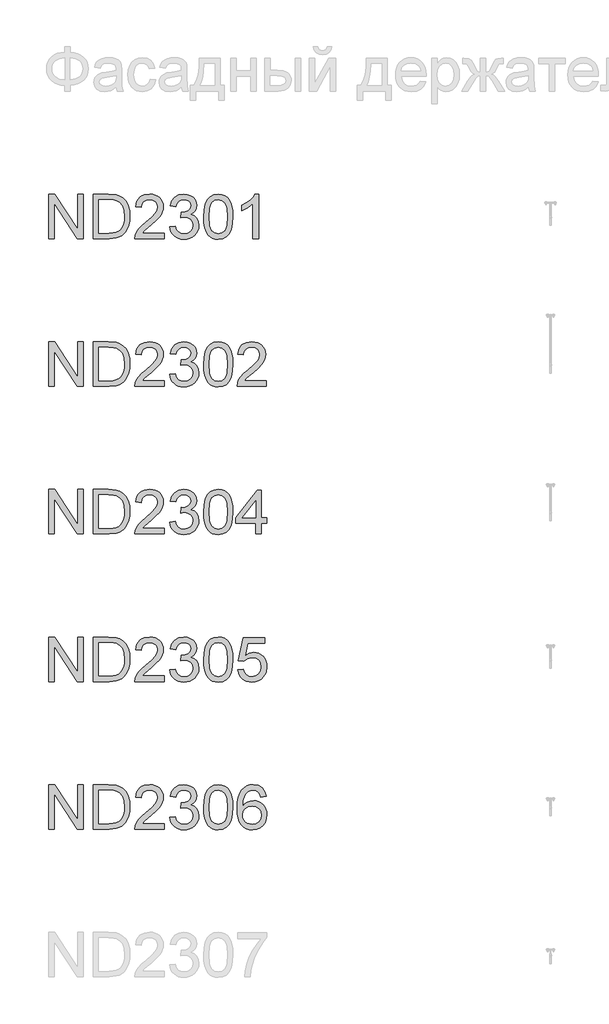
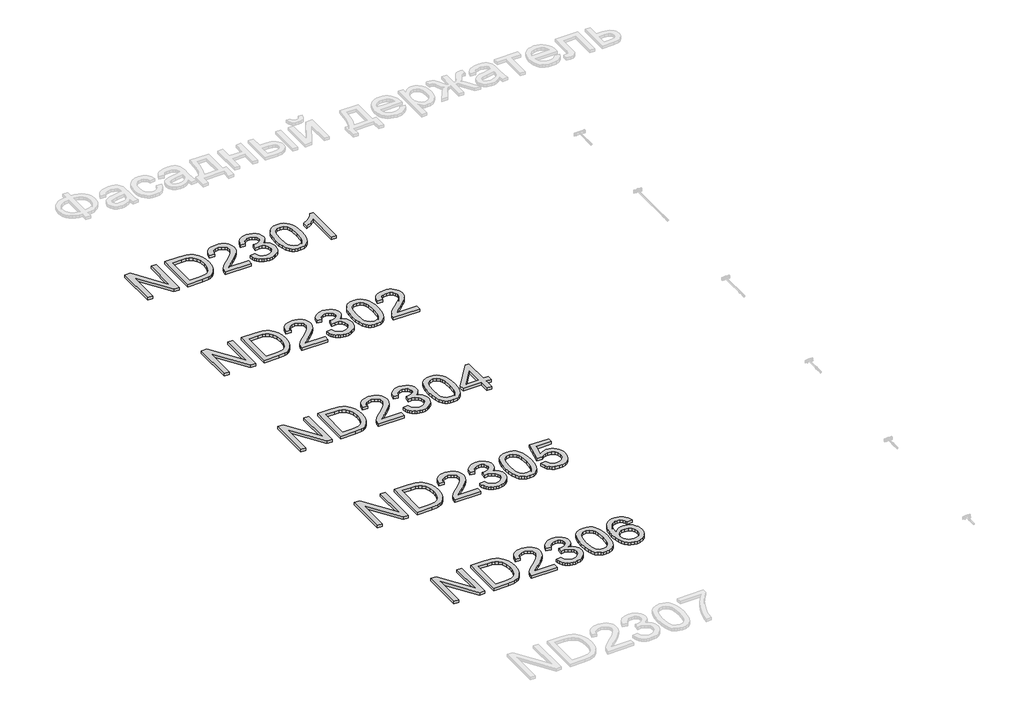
# One storey, part 116 of 124: 5 proxies.
"""IFC4 building model written with IfcOpenShell, lengths in millimetres."""

from ifc_helpers import new_model, si_unit, origin, origin_with_axes, place, context, project, spatial, polyline, outline, extrude, element, save

model = new_model("IFC4")

# Units and contexts
model_context = context("Model", 3, world=origin())
ifc_project = project(units=[si_unit("LENGTHUNIT", "METRE", prefix="MILLI")], contexts=[model_context])

# Site, building, storey
site = spatial("IfcSite", under=ifc_project)
building = spatial("IfcBuilding", under=site)
storey = spatial("IfcBuildingStorey", under=building, Name="Этаж 01", Elevation=0.0)

# Proxies
placement = place(None, origin())
element("IfcBuildingElementProxy", 1, Name="300", ObjectType="300", at=placement, inside=storey, context=model_context, shape_type="SweptSolid", body=[
    extrude(outline(polyline([(34161.4897718, -5519.5141033), (34161.4897718, -5218.1451728), (34201.8096385, -5218.1451728), (34359.2631324, -5456.9005877), (34359.2631324, -5218.1451728), (34396.9342487, -5218.1451728), (34396.9342487, -5519.5141033), (34356.6143821, -5519.5141033), (34199.1608881, -5280.685112), (34199.1608881, -5519.5141033), (34161.4897718, -5519.5141033)])), origin_with_axes(), (0.0, 0.0, 1.0), 20.0),
    extrude(outline(polyline([(34462.8587023, -5519.5141033), (34462.8587023, -5218.1451728), (34566.8221541, -5218.1451728), (34620.6065018, -5222.4861804), (34644.6291961, -5230.8554957), (34664.899494, -5244.0440653), (34685.7400091, -5266.9999018), (34700.5840476, -5295.5475446), (34709.4683977, -5329.1351708), (34712.4298478, -5367.2109573), (34710.4248909, -5399.5569817), (34704.4100203, -5428.0218511), (34695.2497586, -5452.2560775), (34683.8086286, -5471.9101731), (34670.6384532, -5487.4255962), (34656.2910553, -5499.2438053), (34639.819139, -5508.0085939), (34620.275408, -5514.3637553), (34571.8253492, -5519.5141033), (34462.8587023, -5519.5141033)]), holes=[polyline([(34500.5298186, -5481.842987), (34567.1900361, -5481.842987), (34594.7627916, -5480.4818236), (34615.6768831, -5476.3983334), (34631.4590207, -5469.8316398), (34643.6359147, -5461.020866), (34656.7233167, -5444.7144966), (34666.554963, -5423.6072671), (34672.7077894, -5397.6072071), (34674.7587315, -5366.6223461), (34670.7396207, -5325.5667154), (34658.6822883, -5295.253239), (34640.8676027, -5274.4311181), (34619.5764322, -5261.8495538), (34597.9081827, -5257.3246053), (34566.1599665, -5255.8162891), (34500.5298186, -5255.8162891), (34500.5298186, -5481.842987)])]), origin_with_axes(), (0.0, 0.0, 1.0), 20.0),
    extrude(outline(polyline([(34943.1654352, -5481.842987), (34943.1654352, -5519.5141033), (34745.3920746, -5519.5141033), (34749.4387765, -5493.5416344), (34758.7277969, -5473.2437453), (34772.3210366, -5453.5528615), (34791.9843293, -5432.9422727), (34819.4835084, -5409.8852687), (34860.1344689, -5373.7776509), (34884.5250452, -5347.1246003), (34896.7203333, -5325.493139), (34900.7854293, -5304.4502889), (34896.9502595, -5285.5871396), (34885.4447501, -5269.9061695), (34867.7588232, -5259.3387592), (34845.3824009, -5255.8162891), (34821.8839384, -5259.2559858), (34803.6277944, -5269.5750757), (34791.8463735, -5285.9642186), (34787.7720804, -5307.614074), (34750.1009641, -5302.9051845), (34759.2336346, -5266.4664729), (34767.7799932, -5251.9305355), (34778.9797007, -5239.8502105), (34792.5752397, -5230.3542565), (34808.3090928, -5223.5714322), (34846.1917413, -5218.1451728), (34866.381565, -5219.653489), (34884.3503012, -5224.1784375), (34900.0979499, -5231.7200184), (34913.624511, -5242.2782317), (34924.4885261, -5255.0713281), (34932.248537, -5269.3175583), (34936.9045435, -5285.0169225), (34938.4565456, -5302.1694205), (34936.7826826, -5320.1864412), (34931.7610933, -5337.8907622), (34922.849152, -5355.8985859), (34909.5042326, -5374.8261146), (34888.2314563, -5397.4232661), (34855.5359439, -5426.4399585), (34812.1994449, -5462.676335), (34795.2032967, -5481.842987), (34943.1654352, -5481.842987)])), origin_with_axes(), (0.0, 0.0, 1.0), 20.0),
    extrude(outline(polyline([(34980.8365515, -5439.4629811), (35018.5076678, -5434.7540916), (35026.9413625, -5458.427298), (35039.2930005, -5474.4117707), (35056.169587, -5483.51685), (35078.1781274, -5486.5518765), (35104.0034435, -5482.3764158), (35123.9426476, -5469.8500339), (35136.6897587, -5451.1616286), (35140.9387958, -5428.5000977), (35136.7265469, -5406.988198), (35124.0898004, -5389.5413944), (35104.9599367, -5377.9807027), (35081.2683362, -5374.1271388), (35054.8544089, -5378.2474171), (35059.0482637, -5340.5763008), (35065.0815284, -5341.0177592), (35087.6510888, -5338.3138265), (35107.8294162, -5330.2020285), (35122.0664494, -5316.4800301), (35126.8121272, -5296.9454962), (35123.3724305, -5280.6759149), (35113.0533406, -5267.4781484), (35097.3079912, -5258.7317539), (35077.5895162, -5255.8162891), (35057.8342531, -5258.7593451), (35041.6842335, -5267.588513), (35029.8936155, -5282.3037928), (35023.2165573, -5302.9051845), (34985.545441, -5298.196295), (34996.6370832, -5264.3695455), (35016.3739522, -5239.1144465), (35043.3764907, -5223.3874912), (35076.265141, -5218.1451728), (35099.9475445, -5220.7295438), (35121.6985674, -5228.4826569), (35140.0374849, -5240.7147332), (35153.4835718, -5256.7359941), (35161.7333256, -5275.1944732), (35164.4832435, -5294.7382042), (35161.8712813, -5312.948363), (35154.0353948, -5329.4662646), (35141.0859486, -5343.5377509), (35123.1333072, -5354.4086638), (35146.7145431, -5363.9368075), (35164.1889379, -5380.1604035), (35175.0046685, -5402.196535), (35178.6099121, -5429.1622852), (35176.8072903, -5448.2737549), (35171.399425, -5465.8769084), (35162.3863161, -5481.9717457), (35149.7679637, -5496.5582668), (35134.3950948, -5508.6615844), (35117.1184366, -5517.3068113), (35097.9379891, -5522.4939474), (35076.8537522, -5524.2229928), (35057.7974649, -5522.7468663), (35040.4334347, -5518.3184868), (35024.7616617, -5510.9378542), (35010.7821459, -5500.6049687), (34999.0605058, -5487.9268354), (34990.1623601, -5473.5104598), (34984.0877086, -5457.3558417), (34980.8365515, -5439.4629811)])), origin_with_axes(), (0.0, 0.0, 1.0), 20.0),
    extrude(outline(polyline([(35211.5721389, -5371.2576592), (35214.3404509, -5323.0191326), (35222.6453869, -5284.5478729), (35236.4041735, -5255.2552691), (35255.5340373, -5234.5527098), (35280.1729339, -5222.2470571), (35310.4588192, -5218.1451728), (35333.6721731, -5220.573194), (35354.4575058, -5227.8572575), (35371.8399301, -5239.7122548), (35384.8445586, -5255.8530773), (35394.6670079, -5276.1417694), (35402.5028944, -5300.4403751), (35407.6348482, -5331.2964775), (35409.3454995, -5371.2576592), (35406.6047786, -5419.2202743), (35398.382616, -5457.5995635), (35384.7066028, -5486.9197585), (35365.6043302, -5507.7050912), (35340.9102513, -5520.0935174), (35310.4588192, -5524.2229928), (35289.7102746, -5522.4295681), (35271.3161749, -5517.0492939), (35255.2765199, -5508.0821703), (35241.5913097, -5495.5281972), (35228.4579224, -5472.8344766), (35219.0769316, -5444.5581467), (35213.448337, -5410.6992076), (35211.5721389, -5371.2576592)]), holes=[polyline([(35249.2432552, -5371.1840828), (35253.6578391, -5430.4406752), (35259.176069, -5450.7086739), (35266.9015909, -5464.7364742), (35286.6200659, -5481.0980259), (35310.4588192, -5486.5518765), (35334.2975725, -5481.0796318), (35354.0160474, -5464.6628978), (35361.7415693, -5450.6121048), (35367.2597992, -5430.3487047), (35371.6743832, -5371.1840828), (35367.406952, -5313.2610627), (35362.0726631, -5293.0597426), (35354.6046586, -5278.6985492), (35334.9229718, -5261.5368541), (35310.0173608, -5255.8162891), (35286.4361249, -5260.8562725), (35267.4902021, -5275.9762225), (35259.5071628, -5291.6112072), (35253.8049919, -5312.6908456), (35249.2432552, -5371.1840828)])]), origin_with_axes(), (0.0, 0.0, 1.0), 20.0),
    extrude(outline(polyline([(35583.5744124, -5519.5141033), (35545.9032961, -5519.5141033), (35545.9032961, -5284.6582375), (35510.2187425, -5310.0788834), (35470.5610635, -5329.0983826), (35470.5610635, -5293.4874054), (35500.1479729, -5277.3925681), (35525.7801509, -5258.2443103), (35545.9860695, -5237.8820419), (35559.2942007, -5218.1451728), (35583.5744124, -5218.1451728), (35583.5744124, -5519.5141033)])), origin_with_axes(), (0.0, 0.0, 1.0), 20.0),
])
element("IfcBuildingElementProxy", 2, Name="300", ObjectType="300", at=placement, inside=storey, context=model_context, shape_type="SweptSolid", body=[
    extrude(outline(polyline([(34161.4897718, -6519.5141033), (34161.4897718, -6218.1451728), (34201.8096385, -6218.1451728), (34359.2631324, -6456.9005877), (34359.2631324, -6218.1451728), (34396.9342487, -6218.1451728), (34396.9342487, -6519.5141033), (34356.6143821, -6519.5141033), (34199.1608881, -6280.685112), (34199.1608881, -6519.5141033), (34161.4897718, -6519.5141033)])), origin_with_axes(), (0.0, 0.0, 1.0), 20.0),
    extrude(outline(polyline([(34462.8587023, -6519.5141033), (34462.8587023, -6218.1451728), (34566.8221541, -6218.1451728), (34620.6065018, -6222.4861804), (34644.6291961, -6230.8554957), (34664.899494, -6244.0440653), (34685.7400091, -6266.9999018), (34700.5840476, -6295.5475446), (34709.4683977, -6329.1351708), (34712.4298478, -6367.2109573), (34710.4248909, -6399.5569817), (34704.4100203, -6428.0218511), (34695.2497586, -6452.2560775), (34683.8086286, -6471.9101731), (34670.6384532, -6487.4255962), (34656.2910553, -6499.2438053), (34639.819139, -6508.0085939), (34620.275408, -6514.3637553), (34571.8253492, -6519.5141033), (34462.8587023, -6519.5141033)]), holes=[polyline([(34500.5298186, -6481.842987), (34567.1900361, -6481.842987), (34594.7627916, -6480.4818236), (34615.6768831, -6476.3983334), (34631.4590207, -6469.8316398), (34643.6359147, -6461.020866), (34656.7233167, -6444.7144966), (34666.554963, -6423.6072671), (34672.7077894, -6397.6072071), (34674.7587315, -6366.6223461), (34670.7396207, -6325.5667154), (34658.6822883, -6295.253239), (34640.8676027, -6274.4311181), (34619.5764322, -6261.8495538), (34597.9081827, -6257.3246053), (34566.1599665, -6255.8162891), (34500.5298186, -6255.8162891), (34500.5298186, -6481.842987)])]), origin_with_axes(), (0.0, 0.0, 1.0), 20.0),
    extrude(outline(polyline([(34943.1654352, -6481.842987), (34943.1654352, -6519.5141033), (34745.3920746, -6519.5141033), (34749.4387765, -6493.5416344), (34758.7277969, -6473.2437453), (34772.3210366, -6453.5528615), (34791.9843293, -6432.9422727), (34819.4835084, -6409.8852687), (34860.1344689, -6373.7776509), (34884.5250452, -6347.1246003), (34896.7203333, -6325.493139), (34900.7854293, -6304.4502889), (34896.9502595, -6285.5871396), (34885.4447501, -6269.9061695), (34867.7588232, -6259.3387592), (34845.3824009, -6255.8162891), (34821.8839384, -6259.2559858), (34803.6277944, -6269.5750757), (34791.8463735, -6285.9642186), (34787.7720804, -6307.614074), (34750.1009641, -6302.9051845), (34759.2336346, -6266.4664729), (34767.7799932, -6251.9305355), (34778.9797007, -6239.8502105), (34792.5752397, -6230.3542565), (34808.3090928, -6223.5714322), (34846.1917413, -6218.1451728), (34866.381565, -6219.653489), (34884.3503012, -6224.1784375), (34900.0979499, -6231.7200184), (34913.624511, -6242.2782317), (34924.4885261, -6255.0713281), (34932.248537, -6269.3175583), (34936.9045435, -6285.0169225), (34938.4565456, -6302.1694205), (34936.7826826, -6320.1864412), (34931.7610933, -6337.8907622), (34922.849152, -6355.8985859), (34909.5042326, -6374.8261146), (34888.2314563, -6397.4232661), (34855.5359439, -6426.4399585), (34812.1994449, -6462.676335), (34795.2032967, -6481.842987), (34943.1654352, -6481.842987)])), origin_with_axes(), (0.0, 0.0, 1.0), 20.0),
    extrude(outline(polyline([(34980.8365515, -6439.4629811), (35018.5076678, -6434.7540916), (35026.9413625, -6458.427298), (35039.2930005, -6474.4117707), (35056.169587, -6483.51685), (35078.1781274, -6486.5518765), (35104.0034435, -6482.3764158), (35123.9426476, -6469.8500339), (35136.6897587, -6451.1616286), (35140.9387958, -6428.5000977), (35136.7265469, -6406.988198), (35124.0898004, -6389.5413944), (35104.9599367, -6377.9807027), (35081.2683362, -6374.1271388), (35054.8544089, -6378.2474171), (35059.0482637, -6340.5763008), (35065.0815284, -6341.0177592), (35087.6510888, -6338.3138265), (35107.8294162, -6330.2020285), (35122.0664494, -6316.4800301), (35126.8121272, -6296.9454962), (35123.3724305, -6280.6759149), (35113.0533406, -6267.4781484), (35097.3079912, -6258.7317539), (35077.5895162, -6255.8162891), (35057.8342531, -6258.7593451), (35041.6842335, -6267.588513), (35029.8936155, -6282.3037928), (35023.2165573, -6302.9051845), (34985.545441, -6298.196295), (34996.6370832, -6264.3695455), (35016.3739522, -6239.1144465), (35043.3764907, -6223.3874912), (35076.265141, -6218.1451728), (35099.9475445, -6220.7295438), (35121.6985674, -6228.4826569), (35140.0374849, -6240.7147332), (35153.4835718, -6256.7359941), (35161.7333256, -6275.1944732), (35164.4832435, -6294.7382042), (35161.8712813, -6312.948363), (35154.0353948, -6329.4662646), (35141.0859486, -6343.5377509), (35123.1333072, -6354.4086638), (35146.7145431, -6363.9368075), (35164.1889379, -6380.1604035), (35175.0046685, -6402.196535), (35178.6099121, -6429.1622852), (35176.8072903, -6448.2737549), (35171.399425, -6465.8769084), (35162.3863161, -6481.9717457), (35149.7679637, -6496.5582668), (35134.3950948, -6508.6615844), (35117.1184366, -6517.3068113), (35097.9379891, -6522.4939474), (35076.8537522, -6524.2229928), (35057.7974649, -6522.7468663), (35040.4334347, -6518.3184868), (35024.7616617, -6510.9378542), (35010.7821459, -6500.6049687), (34999.0605058, -6487.9268354), (34990.1623601, -6473.5104598), (34984.0877086, -6457.3558417), (34980.8365515, -6439.4629811)])), origin_with_axes(), (0.0, 0.0, 1.0), 20.0),
    extrude(outline(polyline([(35211.5721389, -6371.2576592), (35214.3404509, -6323.0191326), (35222.6453869, -6284.5478729), (35236.4041735, -6255.2552691), (35255.5340373, -6234.5527098), (35280.1729339, -6222.2470571), (35310.4588192, -6218.1451728), (35333.6721731, -6220.573194), (35354.4575058, -6227.8572575), (35371.8399301, -6239.7122548), (35384.8445586, -6255.8530773), (35394.6670079, -6276.1417694), (35402.5028944, -6300.4403751), (35407.6348482, -6331.2964775), (35409.3454995, -6371.2576592), (35406.6047786, -6419.2202743), (35398.382616, -6457.5995635), (35384.7066028, -6486.9197585), (35365.6043302, -6507.7050912), (35340.9102513, -6520.0935174), (35310.4588192, -6524.2229928), (35289.7102746, -6522.4295681), (35271.3161749, -6517.0492939), (35255.2765199, -6508.0821703), (35241.5913097, -6495.5281972), (35228.4579224, -6472.8344766), (35219.0769316, -6444.5581467), (35213.448337, -6410.6992076), (35211.5721389, -6371.2576592)]), holes=[polyline([(35249.2432552, -6371.1840828), (35253.6578391, -6430.4406752), (35259.176069, -6450.7086739), (35266.9015909, -6464.7364742), (35286.6200659, -6481.0980259), (35310.4588192, -6486.5518765), (35334.2975725, -6481.0796318), (35354.0160474, -6464.6628978), (35361.7415693, -6450.6121048), (35367.2597992, -6430.3487047), (35371.6743832, -6371.1840828), (35367.406952, -6313.2610627), (35362.0726631, -6293.0597426), (35354.6046586, -6278.6985492), (35334.9229718, -6261.5368541), (35310.0173608, -6255.8162891), (35286.4361249, -6260.8562725), (35267.4902021, -6275.9762225), (35259.5071628, -6291.6112072), (35253.8049919, -6312.6908456), (35249.2432552, -6371.1840828)])]), origin_with_axes(), (0.0, 0.0, 1.0), 20.0),
    extrude(outline(polyline([(35635.3721973, -6481.842987), (35635.3721973, -6519.5141033), (35437.5988367, -6519.5141033), (35441.6455386, -6493.5416344), (35450.934559, -6473.2437453), (35464.5277987, -6453.5528615), (35484.1910914, -6432.9422727), (35511.6902705, -6409.8852687), (35552.341231, -6373.7776509), (35576.7318073, -6347.1246003), (35588.9270954, -6325.493139), (35592.9921915, -6304.4502889), (35589.1570217, -6285.5871396), (35577.6515123, -6269.9061695), (35559.9655853, -6259.3387592), (35537.589163, -6255.8162891), (35514.0907005, -6259.2559858), (35495.8345565, -6269.5750757), (35484.0531356, -6285.9642186), (35479.9788425, -6307.614074), (35442.3077262, -6302.9051845), (35451.4403968, -6266.4664729), (35459.9867554, -6251.9305355), (35471.1864629, -6239.8502105), (35484.7820018, -6230.3542565), (35500.5158549, -6223.5714322), (35538.3985034, -6218.1451728), (35558.5883271, -6219.653489), (35576.5570633, -6224.1784375), (35592.304712, -6231.7200184), (35605.8312731, -6242.2782317), (35616.6952883, -6255.0713281), (35624.4552991, -6269.3175583), (35629.1113056, -6285.0169225), (35630.6633078, -6302.1694205), (35628.9894447, -6320.1864412), (35623.9678555, -6337.8907622), (35615.0559141, -6355.8985859), (35601.7109947, -6374.8261146), (35580.4382184, -6397.4232661), (35547.7427061, -6426.4399585), (35504.406207, -6462.676335), (35487.4100588, -6481.842987), (35635.3721973, -6481.842987)])), origin_with_axes(), (0.0, 0.0, 1.0), 20.0),
])
element("IfcBuildingElementProxy", 3, Name="300", ObjectType="300", at=placement, inside=storey, context=model_context, shape_type="SweptSolid", body=[
    extrude(outline(polyline([(34161.4897718, -7519.5141033), (34161.4897718, -7218.1451728), (34201.8096385, -7218.1451728), (34359.2631324, -7456.9005877), (34359.2631324, -7218.1451728), (34396.9342487, -7218.1451728), (34396.9342487, -7519.5141033), (34356.6143821, -7519.5141033), (34199.1608881, -7280.685112), (34199.1608881, -7519.5141033), (34161.4897718, -7519.5141033)])), origin_with_axes(), (0.0, 0.0, 1.0), 20.0),
    extrude(outline(polyline([(34462.8587023, -7519.5141033), (34462.8587023, -7218.1451728), (34566.8221541, -7218.1451728), (34620.6065018, -7222.4861804), (34644.6291961, -7230.8554957), (34664.899494, -7244.0440653), (34685.7400091, -7266.9999018), (34700.5840476, -7295.5475446), (34709.4683977, -7329.1351708), (34712.4298478, -7367.2109573), (34710.4248909, -7399.5569817), (34704.4100203, -7428.0218511), (34695.2497586, -7452.2560775), (34683.8086286, -7471.9101731), (34670.6384532, -7487.4255962), (34656.2910553, -7499.2438053), (34639.819139, -7508.0085939), (34620.275408, -7514.3637553), (34571.8253492, -7519.5141033), (34462.8587023, -7519.5141033)]), holes=[polyline([(34500.5298186, -7481.842987), (34567.1900361, -7481.842987), (34594.7627916, -7480.4818236), (34615.6768831, -7476.3983334), (34631.4590207, -7469.8316398), (34643.6359147, -7461.020866), (34656.7233167, -7444.7144966), (34666.554963, -7423.6072671), (34672.7077894, -7397.6072071), (34674.7587315, -7366.6223461), (34670.7396207, -7325.5667154), (34658.6822883, -7295.253239), (34640.8676027, -7274.4311181), (34619.5764322, -7261.8495538), (34597.9081827, -7257.3246053), (34566.1599665, -7255.8162891), (34500.5298186, -7255.8162891), (34500.5298186, -7481.842987)])]), origin_with_axes(), (0.0, 0.0, 1.0), 20.0),
    extrude(outline(polyline([(34943.1654352, -7481.842987), (34943.1654352, -7519.5141033), (34745.3920746, -7519.5141033), (34749.4387765, -7493.5416344), (34758.7277969, -7473.2437453), (34772.3210366, -7453.5528615), (34791.9843293, -7432.9422727), (34819.4835084, -7409.8852687), (34860.1344689, -7373.7776509), (34884.5250452, -7347.1246003), (34896.7203333, -7325.493139), (34900.7854293, -7304.4502889), (34896.9502595, -7285.5871396), (34885.4447501, -7269.9061695), (34867.7588232, -7259.3387592), (34845.3824009, -7255.8162891), (34821.8839384, -7259.2559858), (34803.6277944, -7269.5750757), (34791.8463735, -7285.9642186), (34787.7720804, -7307.614074), (34750.1009641, -7302.9051845), (34759.2336346, -7266.4664729), (34767.7799932, -7251.9305355), (34778.9797007, -7239.8502105), (34792.5752397, -7230.3542565), (34808.3090928, -7223.5714322), (34846.1917413, -7218.1451728), (34866.381565, -7219.653489), (34884.3503012, -7224.1784375), (34900.0979499, -7231.7200184), (34913.624511, -7242.2782317), (34924.4885261, -7255.0713281), (34932.248537, -7269.3175583), (34936.9045435, -7285.0169225), (34938.4565456, -7302.1694205), (34936.7826826, -7320.1864412), (34931.7610933, -7337.8907622), (34922.849152, -7355.8985859), (34909.5042326, -7374.8261146), (34888.2314563, -7397.4232661), (34855.5359439, -7426.4399585), (34812.1994449, -7462.676335), (34795.2032967, -7481.842987), (34943.1654352, -7481.842987)])), origin_with_axes(), (0.0, 0.0, 1.0), 20.0),
    extrude(outline(polyline([(34980.8365515, -7439.4629811), (35018.5076678, -7434.7540916), (35026.9413625, -7458.427298), (35039.2930005, -7474.4117707), (35056.169587, -7483.51685), (35078.1781274, -7486.5518765), (35104.0034435, -7482.3764158), (35123.9426476, -7469.8500339), (35136.6897587, -7451.1616286), (35140.9387958, -7428.5000977), (35136.7265469, -7406.988198), (35124.0898004, -7389.5413944), (35104.9599367, -7377.9807027), (35081.2683362, -7374.1271388), (35054.8544089, -7378.2474171), (35059.0482637, -7340.5763008), (35065.0815284, -7341.0177592), (35087.6510888, -7338.3138265), (35107.8294162, -7330.2020285), (35122.0664494, -7316.4800301), (35126.8121272, -7296.9454962), (35123.3724305, -7280.6759149), (35113.0533406, -7267.4781484), (35097.3079912, -7258.7317539), (35077.5895162, -7255.8162891), (35057.8342531, -7258.7593451), (35041.6842335, -7267.588513), (35029.8936155, -7282.3037928), (35023.2165573, -7302.9051845), (34985.545441, -7298.196295), (34996.6370832, -7264.3695455), (35016.3739522, -7239.1144465), (35043.3764907, -7223.3874912), (35076.265141, -7218.1451728), (35099.9475445, -7220.7295438), (35121.6985674, -7228.4826569), (35140.0374849, -7240.7147332), (35153.4835718, -7256.7359941), (35161.7333256, -7275.1944732), (35164.4832435, -7294.7382042), (35161.8712813, -7312.948363), (35154.0353948, -7329.4662646), (35141.0859486, -7343.5377509), (35123.1333072, -7354.4086638), (35146.7145431, -7363.9368075), (35164.1889379, -7380.1604035), (35175.0046685, -7402.196535), (35178.6099121, -7429.1622852), (35176.8072903, -7448.2737549), (35171.399425, -7465.8769084), (35162.3863161, -7481.9717457), (35149.7679637, -7496.5582668), (35134.3950948, -7508.6615844), (35117.1184366, -7517.3068113), (35097.9379891, -7522.4939474), (35076.8537522, -7524.2229928), (35057.7974649, -7522.7468663), (35040.4334347, -7518.3184868), (35024.7616617, -7510.9378542), (35010.7821459, -7500.6049687), (34999.0605058, -7487.9268354), (34990.1623601, -7473.5104598), (34984.0877086, -7457.3558417), (34980.8365515, -7439.4629811)])), origin_with_axes(), (0.0, 0.0, 1.0), 20.0),
    extrude(outline(polyline([(35211.5721389, -7371.2576592), (35214.3404509, -7323.0191326), (35222.6453869, -7284.5478729), (35236.4041735, -7255.2552691), (35255.5340373, -7234.5527098), (35280.1729339, -7222.2470571), (35310.4588192, -7218.1451728), (35333.6721731, -7220.573194), (35354.4575058, -7227.8572575), (35371.8399301, -7239.7122548), (35384.8445586, -7255.8530773), (35394.6670079, -7276.1417694), (35402.5028944, -7300.4403751), (35407.6348482, -7331.2964775), (35409.3454995, -7371.2576592), (35406.6047786, -7419.2202743), (35398.382616, -7457.5995635), (35384.7066028, -7486.9197585), (35365.6043302, -7507.7050912), (35340.9102513, -7520.0935174), (35310.4588192, -7524.2229928), (35289.7102746, -7522.4295681), (35271.3161749, -7517.0492939), (35255.2765199, -7508.0821703), (35241.5913097, -7495.5281972), (35228.4579224, -7472.8344766), (35219.0769316, -7444.5581467), (35213.448337, -7410.6992076), (35211.5721389, -7371.2576592)]), holes=[polyline([(35249.2432552, -7371.1840828), (35253.6578391, -7430.4406752), (35259.176069, -7450.7086739), (35266.9015909, -7464.7364742), (35286.6200659, -7481.0980259), (35310.4588192, -7486.5518765), (35334.2975725, -7481.0796318), (35354.0160474, -7464.6628978), (35361.7415693, -7450.6121048), (35367.2597992, -7430.3487047), (35371.6743832, -7371.1840828), (35367.406952, -7313.2610627), (35362.0726631, -7293.0597426), (35354.6046586, -7278.6985492), (35334.9229718, -7261.5368541), (35310.0173608, -7255.8162891), (35286.4361249, -7260.8562725), (35267.4902021, -7275.9762225), (35259.5071628, -7291.6112072), (35253.8049919, -7312.6908456), (35249.2432552, -7371.1840828)])]), origin_with_axes(), (0.0, 0.0, 1.0), 20.0),
    extrude(outline(polyline([(35564.7388542, -7519.5141033), (35564.7388542, -7448.8807602), (35428.1810576, -7448.8807602), (35428.1810576, -7411.2096439), (35574.1566333, -7222.8540624), (35602.4099705, -7222.8540624), (35602.4099705, -7411.2096439), (35640.0810868, -7411.2096439), (35640.0810868, -7448.8807602), (35602.4099705, -7448.8807602), (35602.4099705, -7519.5141033), (35564.7388542, -7519.5141033)]), holes=[polyline([(35564.7388542, -7411.2096439), (35564.7388542, -7294.8117806), (35474.534189, -7411.2096439), (35564.7388542, -7411.2096439)])]), origin_with_axes(), (0.0, 0.0, 1.0), 20.0),
])
element("IfcBuildingElementProxy", 4, Name="300", ObjectType="300", at=placement, inside=storey, context=model_context, shape_type="SweptSolid", body=[
    extrude(outline(polyline([(34161.4897718, -8519.5141033), (34161.4897718, -8218.1451728), (34201.8096385, -8218.1451728), (34359.2631324, -8456.9005877), (34359.2631324, -8218.1451728), (34396.9342487, -8218.1451728), (34396.9342487, -8519.5141033), (34356.6143821, -8519.5141033), (34199.1608881, -8280.685112), (34199.1608881, -8519.5141033), (34161.4897718, -8519.5141033)])), origin_with_axes(), (0.0, 0.0, 1.0), 20.0),
    extrude(outline(polyline([(34462.8587023, -8519.5141033), (34462.8587023, -8218.1451728), (34566.8221541, -8218.1451728), (34620.6065018, -8222.4861804), (34644.6291961, -8230.8554957), (34664.899494, -8244.0440653), (34685.7400091, -8266.9999018), (34700.5840476, -8295.5475446), (34709.4683977, -8329.1351708), (34712.4298478, -8367.2109573), (34710.4248909, -8399.5569817), (34704.4100203, -8428.0218511), (34695.2497586, -8452.2560775), (34683.8086286, -8471.9101731), (34670.6384532, -8487.4255962), (34656.2910553, -8499.2438053), (34639.819139, -8508.0085939), (34620.275408, -8514.3637553), (34571.8253492, -8519.5141033), (34462.8587023, -8519.5141033)]), holes=[polyline([(34500.5298186, -8481.842987), (34567.1900361, -8481.842987), (34594.7627916, -8480.4818236), (34615.6768831, -8476.3983334), (34631.4590207, -8469.8316398), (34643.6359147, -8461.020866), (34656.7233167, -8444.7144966), (34666.554963, -8423.6072671), (34672.7077894, -8397.6072071), (34674.7587315, -8366.6223461), (34670.7396207, -8325.5667154), (34658.6822883, -8295.253239), (34640.8676027, -8274.4311181), (34619.5764322, -8261.8495538), (34597.9081827, -8257.3246053), (34566.1599665, -8255.8162891), (34500.5298186, -8255.8162891), (34500.5298186, -8481.842987)])]), origin_with_axes(), (0.0, 0.0, 1.0), 20.0),
    extrude(outline(polyline([(34943.1654352, -8481.842987), (34943.1654352, -8519.5141033), (34745.3920746, -8519.5141033), (34749.4387765, -8493.5416344), (34758.7277969, -8473.2437453), (34772.3210366, -8453.5528615), (34791.9843293, -8432.9422727), (34819.4835084, -8409.8852687), (34860.1344689, -8373.7776509), (34884.5250452, -8347.1246003), (34896.7203333, -8325.493139), (34900.7854293, -8304.4502889), (34896.9502595, -8285.5871396), (34885.4447501, -8269.9061695), (34867.7588232, -8259.3387592), (34845.3824009, -8255.8162891), (34821.8839384, -8259.2559858), (34803.6277944, -8269.5750757), (34791.8463735, -8285.9642186), (34787.7720804, -8307.614074), (34750.1009641, -8302.9051845), (34759.2336346, -8266.4664729), (34767.7799932, -8251.9305355), (34778.9797007, -8239.8502105), (34792.5752397, -8230.3542565), (34808.3090928, -8223.5714322), (34846.1917413, -8218.1451728), (34866.381565, -8219.653489), (34884.3503012, -8224.1784375), (34900.0979499, -8231.7200184), (34913.624511, -8242.2782317), (34924.4885261, -8255.0713281), (34932.248537, -8269.3175583), (34936.9045435, -8285.0169225), (34938.4565456, -8302.1694205), (34936.7826826, -8320.1864412), (34931.7610933, -8337.8907622), (34922.849152, -8355.8985859), (34909.5042326, -8374.8261146), (34888.2314563, -8397.4232661), (34855.5359439, -8426.4399585), (34812.1994449, -8462.676335), (34795.2032967, -8481.842987), (34943.1654352, -8481.842987)])), origin_with_axes(), (0.0, 0.0, 1.0), 20.0),
    extrude(outline(polyline([(34980.8365515, -8439.4629811), (35018.5076678, -8434.7540916), (35026.9413625, -8458.427298), (35039.2930005, -8474.4117707), (35056.169587, -8483.51685), (35078.1781274, -8486.5518765), (35104.0034435, -8482.3764158), (35123.9426476, -8469.8500339), (35136.6897587, -8451.1616286), (35140.9387958, -8428.5000977), (35136.7265469, -8406.988198), (35124.0898004, -8389.5413944), (35104.9599367, -8377.9807027), (35081.2683362, -8374.1271388), (35054.8544089, -8378.2474171), (35059.0482637, -8340.5763008), (35065.0815284, -8341.0177592), (35087.6510888, -8338.3138265), (35107.8294162, -8330.2020285), (35122.0664494, -8316.4800301), (35126.8121272, -8296.9454962), (35123.3724305, -8280.6759149), (35113.0533406, -8267.4781484), (35097.3079912, -8258.7317539), (35077.5895162, -8255.8162891), (35057.8342531, -8258.7593451), (35041.6842335, -8267.588513), (35029.8936155, -8282.3037928), (35023.2165573, -8302.9051845), (34985.545441, -8298.196295), (34996.6370832, -8264.3695455), (35016.3739522, -8239.1144465), (35043.3764907, -8223.3874912), (35076.265141, -8218.1451728), (35099.9475445, -8220.7295438), (35121.6985674, -8228.4826569), (35140.0374849, -8240.7147332), (35153.4835718, -8256.7359941), (35161.7333256, -8275.1944732), (35164.4832435, -8294.7382042), (35161.8712813, -8312.948363), (35154.0353948, -8329.4662646), (35141.0859486, -8343.5377509), (35123.1333072, -8354.4086638), (35146.7145431, -8363.9368075), (35164.1889379, -8380.1604035), (35175.0046685, -8402.196535), (35178.6099121, -8429.1622852), (35176.8072903, -8448.2737549), (35171.399425, -8465.8769084), (35162.3863161, -8481.9717457), (35149.7679637, -8496.5582668), (35134.3950948, -8508.6615844), (35117.1184366, -8517.3068113), (35097.9379891, -8522.4939474), (35076.8537522, -8524.2229928), (35057.7974649, -8522.7468663), (35040.4334347, -8518.3184868), (35024.7616617, -8510.9378542), (35010.7821459, -8500.6049687), (34999.0605058, -8487.9268354), (34990.1623601, -8473.5104598), (34984.0877086, -8457.3558417), (34980.8365515, -8439.4629811)])), origin_with_axes(), (0.0, 0.0, 1.0), 20.0),
    extrude(outline(polyline([(35211.5721389, -8371.2576592), (35214.3404509, -8323.0191326), (35222.6453869, -8284.5478729), (35236.4041735, -8255.2552691), (35255.5340373, -8234.5527098), (35280.1729339, -8222.2470571), (35310.4588192, -8218.1451728), (35333.6721731, -8220.573194), (35354.4575058, -8227.8572575), (35371.8399301, -8239.7122548), (35384.8445586, -8255.8530773), (35394.6670079, -8276.1417694), (35402.5028944, -8300.4403751), (35407.6348482, -8331.2964775), (35409.3454995, -8371.2576592), (35406.6047786, -8419.2202743), (35398.382616, -8457.5995635), (35384.7066028, -8486.9197585), (35365.6043302, -8507.7050912), (35340.9102513, -8520.0935174), (35310.4588192, -8524.2229928), (35289.7102746, -8522.4295681), (35271.3161749, -8517.0492939), (35255.2765199, -8508.0821703), (35241.5913097, -8495.5281972), (35228.4579224, -8472.8344766), (35219.0769316, -8444.5581467), (35213.448337, -8410.6992076), (35211.5721389, -8371.2576592)]), holes=[polyline([(35249.2432552, -8371.1840828), (35253.6578391, -8430.4406752), (35259.176069, -8450.7086739), (35266.9015909, -8464.7364742), (35286.6200659, -8481.0980259), (35310.4588192, -8486.5518765), (35334.2975725, -8481.0796318), (35354.0160474, -8464.6628978), (35361.7415693, -8450.6121048), (35367.2597992, -8430.3487047), (35371.6743832, -8371.1840828), (35367.406952, -8313.2610627), (35362.0726631, -8293.0597426), (35354.6046586, -8278.6985492), (35334.9229718, -8261.5368541), (35310.0173608, -8255.8162891), (35286.4361249, -8260.8562725), (35267.4902021, -8275.9762225), (35259.5071628, -8291.6112072), (35253.8049919, -8312.6908456), (35249.2432552, -8371.1840828)])]), origin_with_axes(), (0.0, 0.0, 1.0), 20.0),
    extrude(outline(polyline([(35442.3077262, -8439.4629811), (35479.9788425, -8434.7540916), (35486.8950241, -8457.3696372), (35498.9615535, -8473.5656421), (35516.1232486, -8483.3053179), (35538.324927, -8486.5518765), (35565.3274654, -8482.036125), (35585.5609752, -8468.4888705), (35598.1977217, -8447.4736116), (35602.4099705, -8420.5538466), (35598.4644361, -8395.2067771), (35586.6278329, -8375.8193959), (35566.8081905, -8363.5137432), (35538.9135382, -8359.411859), (35520.6390001, -8361.0489338), (35505.8409468, -8365.9601585), (35484.6877321, -8382.9563067), (35447.0166158, -8378.2474171), (35479.9788425, -8222.8540624), (35625.9544182, -8222.8540624), (35625.9544182, -8260.5251787), (35510.4394717, -8260.5251787), (35494.3262404, -8343.5193568), (35521.2368083, -8327.1853962), (35549.4349632, -8321.7407427), (35567.7807785, -8323.4284013), (35584.6320731, -8328.4913773), (35599.9888472, -8336.9296705), (35613.8511006, -8348.7432811), (35625.3267196, -8363.2102406), (35633.5235903, -8379.6085805), (35638.4417127, -8397.9383009), (35640.0810868, -8418.1994018), (35634.1765808, -8455.8705181), (35626.7959483, -8472.6643312), (35616.4630628, -8488.0969809), (35600.8096839, -8503.9021111), (35582.5443428, -8515.1914898), (35561.6670396, -8521.9651171), (35538.1777742, -8524.2229928), (35501.1780425, -8518.4196543), (35485.4993717, -8511.1654812), (35471.7014977, -8501.0096389), (35460.2212801, -8488.4579651), (35451.4955791, -8474.0162975), (35442.3077262, -8439.4629811)])), origin_with_axes(), (0.0, 0.0, 1.0), 20.0),
])
element("IfcBuildingElementProxy", 5, Name="300", ObjectType="300", at=placement, inside=storey, context=model_context, shape_type="SweptSolid", body=[
    extrude(outline(polyline([(34161.4897718, -9519.5141033), (34161.4897718, -9218.1451728), (34201.8096385, -9218.1451728), (34359.2631324, -9456.9005877), (34359.2631324, -9218.1451728), (34396.9342487, -9218.1451728), (34396.9342487, -9519.5141033), (34356.6143821, -9519.5141033), (34199.1608881, -9280.685112), (34199.1608881, -9519.5141033), (34161.4897718, -9519.5141033)])), origin_with_axes(), (0.0, 0.0, 1.0), 20.0),
    extrude(outline(polyline([(34462.8587023, -9519.5141033), (34462.8587023, -9218.1451728), (34566.8221541, -9218.1451728), (34620.6065018, -9222.4861804), (34644.6291961, -9230.8554957), (34664.899494, -9244.0440653), (34685.7400091, -9266.9999018), (34700.5840476, -9295.5475446), (34709.4683977, -9329.1351708), (34712.4298478, -9367.2109573), (34710.4248909, -9399.5569817), (34704.4100203, -9428.0218511), (34695.2497586, -9452.2560775), (34683.8086286, -9471.9101731), (34670.6384532, -9487.4255962), (34656.2910553, -9499.2438053), (34639.819139, -9508.0085939), (34620.275408, -9514.3637553), (34571.8253492, -9519.5141033), (34462.8587023, -9519.5141033)]), holes=[polyline([(34500.5298186, -9481.842987), (34567.1900361, -9481.842987), (34594.7627916, -9480.4818236), (34615.6768831, -9476.3983334), (34631.4590207, -9469.8316398), (34643.6359147, -9461.020866), (34656.7233167, -9444.7144966), (34666.554963, -9423.6072671), (34672.7077894, -9397.6072071), (34674.7587315, -9366.6223461), (34670.7396207, -9325.5667154), (34658.6822883, -9295.253239), (34640.8676027, -9274.4311181), (34619.5764322, -9261.8495538), (34597.9081827, -9257.3246053), (34566.1599665, -9255.8162891), (34500.5298186, -9255.8162891), (34500.5298186, -9481.842987)])]), origin_with_axes(), (0.0, 0.0, 1.0), 20.0),
    extrude(outline(polyline([(34943.1654352, -9481.842987), (34943.1654352, -9519.5141033), (34745.3920746, -9519.5141033), (34749.4387765, -9493.5416344), (34758.7277969, -9473.2437453), (34772.3210366, -9453.5528615), (34791.9843293, -9432.9422727), (34819.4835084, -9409.8852687), (34860.1344689, -9373.7776509), (34884.5250452, -9347.1246003), (34896.7203333, -9325.493139), (34900.7854293, -9304.4502889), (34896.9502595, -9285.5871396), (34885.4447501, -9269.9061695), (34867.7588232, -9259.3387592), (34845.3824009, -9255.8162891), (34821.8839384, -9259.2559858), (34803.6277944, -9269.5750757), (34791.8463735, -9285.9642186), (34787.7720804, -9307.614074), (34750.1009641, -9302.9051845), (34759.2336346, -9266.4664729), (34767.7799932, -9251.9305355), (34778.9797007, -9239.8502105), (34792.5752397, -9230.3542565), (34808.3090928, -9223.5714322), (34846.1917413, -9218.1451728), (34866.381565, -9219.653489), (34884.3503012, -9224.1784375), (34900.0979499, -9231.7200184), (34913.624511, -9242.2782317), (34924.4885261, -9255.0713281), (34932.248537, -9269.3175583), (34936.9045435, -9285.0169225), (34938.4565456, -9302.1694205), (34936.7826826, -9320.1864412), (34931.7610933, -9337.8907622), (34922.849152, -9355.8985859), (34909.5042326, -9374.8261146), (34888.2314563, -9397.4232661), (34855.5359439, -9426.4399585), (34812.1994449, -9462.676335), (34795.2032967, -9481.842987), (34943.1654352, -9481.842987)])), origin_with_axes(), (0.0, 0.0, 1.0), 20.0),
    extrude(outline(polyline([(34980.8365515, -9439.4629811), (35018.5076678, -9434.7540916), (35026.9413625, -9458.427298), (35039.2930005, -9474.4117707), (35056.169587, -9483.51685), (35078.1781274, -9486.5518765), (35104.0034435, -9482.3764158), (35123.9426476, -9469.8500339), (35136.6897587, -9451.1616286), (35140.9387958, -9428.5000977), (35136.7265469, -9406.988198), (35124.0898004, -9389.5413944), (35104.9599367, -9377.9807027), (35081.2683362, -9374.1271388), (35054.8544089, -9378.2474171), (35059.0482637, -9340.5763008), (35065.0815284, -9341.0177592), (35087.6510888, -9338.3138265), (35107.8294162, -9330.2020285), (35122.0664494, -9316.4800301), (35126.8121272, -9296.9454962), (35123.3724305, -9280.6759149), (35113.0533406, -9267.4781484), (35097.3079912, -9258.7317539), (35077.5895162, -9255.8162891), (35057.8342531, -9258.7593451), (35041.6842335, -9267.588513), (35029.8936155, -9282.3037928), (35023.2165573, -9302.9051845), (34985.545441, -9298.196295), (34996.6370832, -9264.3695455), (35016.3739522, -9239.1144465), (35043.3764907, -9223.3874912), (35076.265141, -9218.1451728), (35099.9475445, -9220.7295438), (35121.6985674, -9228.4826569), (35140.0374849, -9240.7147332), (35153.4835718, -9256.7359941), (35161.7333256, -9275.1944732), (35164.4832435, -9294.7382042), (35161.8712813, -9312.948363), (35154.0353948, -9329.4662646), (35141.0859486, -9343.5377509), (35123.1333072, -9354.4086638), (35146.7145431, -9363.9368075), (35164.1889379, -9380.1604035), (35175.0046685, -9402.196535), (35178.6099121, -9429.1622852), (35176.8072903, -9448.2737549), (35171.399425, -9465.8769084), (35162.3863161, -9481.9717457), (35149.7679637, -9496.5582668), (35134.3950948, -9508.6615844), (35117.1184366, -9517.3068113), (35097.9379891, -9522.4939474), (35076.8537522, -9524.2229928), (35057.7974649, -9522.7468663), (35040.4334347, -9518.3184868), (35024.7616617, -9510.9378542), (35010.7821459, -9500.6049687), (34999.0605058, -9487.9268354), (34990.1623601, -9473.5104598), (34984.0877086, -9457.3558417), (34980.8365515, -9439.4629811)])), origin_with_axes(), (0.0, 0.0, 1.0), 20.0),
    extrude(outline(polyline([(35211.5721389, -9371.2576592), (35214.3404509, -9323.0191326), (35222.6453869, -9284.5478729), (35236.4041735, -9255.2552691), (35255.5340373, -9234.5527098), (35280.1729339, -9222.2470571), (35310.4588192, -9218.1451728), (35333.6721731, -9220.573194), (35354.4575058, -9227.8572575), (35371.8399301, -9239.7122548), (35384.8445586, -9255.8530773), (35394.6670079, -9276.1417694), (35402.5028944, -9300.4403751), (35407.6348482, -9331.2964775), (35409.3454995, -9371.2576592), (35406.6047786, -9419.2202743), (35398.382616, -9457.5995635), (35384.7066028, -9486.9197585), (35365.6043302, -9507.7050912), (35340.9102513, -9520.0935174), (35310.4588192, -9524.2229928), (35289.7102746, -9522.4295681), (35271.3161749, -9517.0492939), (35255.2765199, -9508.0821703), (35241.5913097, -9495.5281972), (35228.4579224, -9472.8344766), (35219.0769316, -9444.5581467), (35213.448337, -9410.6992076), (35211.5721389, -9371.2576592)]), holes=[polyline([(35249.2432552, -9371.1840828), (35253.6578391, -9430.4406752), (35259.176069, -9450.7086739), (35266.9015909, -9464.7364742), (35286.6200659, -9481.0980259), (35310.4588192, -9486.5518765), (35334.2975725, -9481.0796318), (35354.0160474, -9464.6628978), (35361.7415693, -9450.6121048), (35367.2597992, -9430.3487047), (35371.6743832, -9371.1840828), (35367.406952, -9313.2610627), (35362.0726631, -9293.0597426), (35354.6046586, -9278.6985492), (35334.9229718, -9261.5368541), (35310.0173608, -9255.8162891), (35286.4361249, -9260.8562725), (35267.4902021, -9275.9762225), (35259.5071628, -9291.6112072), (35253.8049919, -9312.6908456), (35249.2432552, -9371.1840828)])]), origin_with_axes(), (0.0, 0.0, 1.0), 20.0),
    extrude(outline(polyline([(35635.3721973, -9298.196295), (35597.701081, -9302.9051845), (35591.6310281, -9284.2351732), (35583.4272596, -9271.4880621), (35566.3391409, -9259.7342324), (35545.6825669, -9255.8162891), (35528.1713839, -9258.0971575), (35511.6902705, -9264.9397626), (35497.5360108, -9279.3515398), (35485.9753191, -9299.1895763), (35478.1670237, -9327.2497755), (35475.269953, -9366.3280405), (35490.380706, -9348.6972959), (35508.4896972, -9336.2720815), (35528.5852512, -9328.9052445), (35549.6556924, -9326.4496322), (35567.7554866, -9328.1280938), (35584.4573292, -9333.1634786), (35599.7612202, -9341.5557866), (35613.6671596, -9353.3050178), (35625.2232528, -9367.7121965), (35633.477605, -9384.0783467), (35638.4302164, -9402.4034686), (35640.0810868, -9422.6875621), (35636.972484, -9449.6625094), (35627.6466754, -9474.669288), (35612.8762133, -9495.8776851), (35593.4336499, -9511.4574876), (35570.2019019, -9521.0316165), (35544.0638861, -9524.2229928), (35521.6069896, -9522.1076713), (35501.3251953, -9515.7617069), (35483.2185034, -9505.1850995), (35467.2869137, -9490.3778492), (35454.29838, -9470.7145566), (35445.020856, -9445.5698222), (35439.4543415, -9414.9436461), (35437.5988367, -9378.8360283), (35439.6589759, -9338.3552133), (35445.8393934, -9303.8064954), (35456.1400893, -9275.1898747), (35470.5610635, -9252.5053512), (35486.1914497, -9237.4727731), (35504.3142365, -9226.7352174), (35524.9294238, -9220.292684), (35548.0370117, -9218.1451728), (35581.0912089, -9223.4610676), (35607.5603185, -9239.4087521), (35626.101571, -9264.7374275), (35635.3721973, -9298.196295)]), holes=[polyline([(35475.269953, -9422.0989509), (35477.4496538, -9438.7915965), (35483.9887563, -9454.7300839), (35494.1422994, -9468.4336882), (35507.165322, -9478.4216844), (35522.8830802, -9484.5193285), (35541.1208301, -9486.5518765), (35565.980456, -9482.3396276), (35585.524187, -9469.7028811), (35598.1885246, -9449.8372534), (35602.4099705, -9423.9383609), (35598.2437069, -9399.0787351), (35585.7449162, -9380.1236153), (35565.8700914, -9368.1214652), (35539.5757258, -9364.1207485), (35514.7528881, -9368.1214652), (35493.9951466, -9380.1236153), (35479.9512514, -9398.6188826), (35475.269953, -9422.0989509)])]), origin_with_axes(), (0.0, 0.0, 1.0), 20.0),
])

save(model, "model.ifc")
